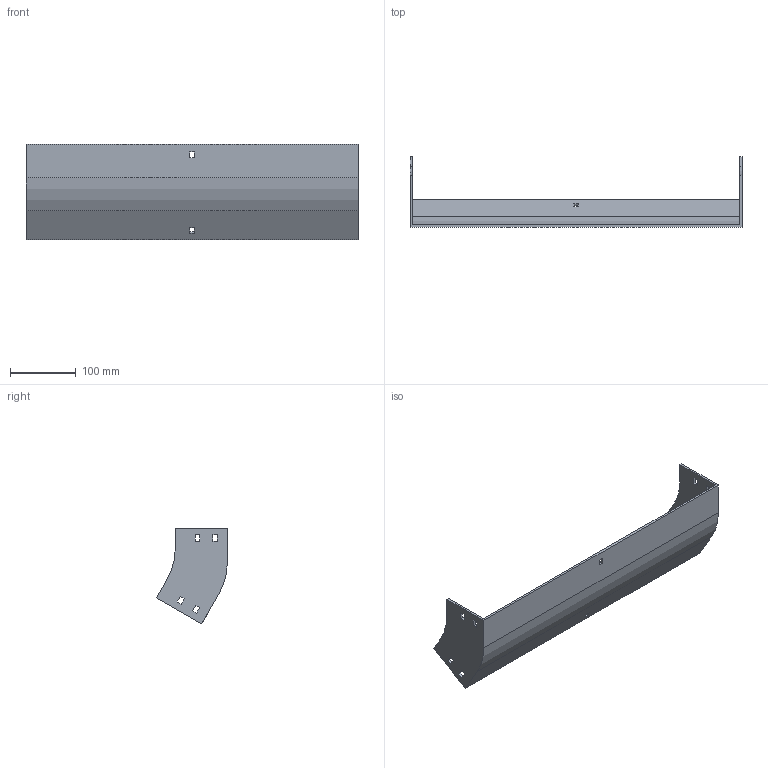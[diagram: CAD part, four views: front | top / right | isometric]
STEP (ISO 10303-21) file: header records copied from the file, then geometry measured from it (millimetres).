
FILE_DESCRIPTION (( 'STEP AP214' ), '1' );
FILE_NAME ('32F1C500.step', '2025-02-21T12:58:46', ( '' ), ( '' ), 'SwSTEP 2.0', 'SolidWorks 2023', '' );
FILE_SCHEMA (( 'AUTOMOTIVE_DESIGN' ));
Length unit declared in the file: millimetre
Products named in the file (1): 32F1C500
Bounding box: 504 x 107.4 x 145.48 mm (x, y, z)
Volume: 339651.1 mm3; surface area: 200633.3 mm2
Topology: 1 solids, 1 shells, 58 faces, 168 edges, 112 vertices
Faces by surface type: plane 54, cylinder 4
Entity records: 1943 total; most frequent: CARTESIAN_POINT 339, ORIENTED_EDGE 336, DIRECTION 294, EDGE_CURVE 168, VECTOR 160, LINE 160, VERTEX_POINT 112, EDGE_LOOP 78
